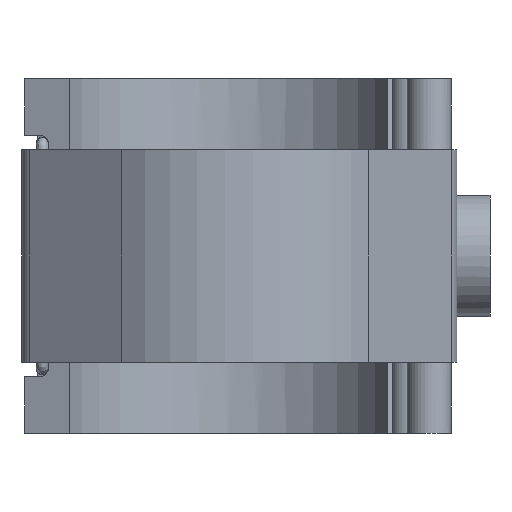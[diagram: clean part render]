
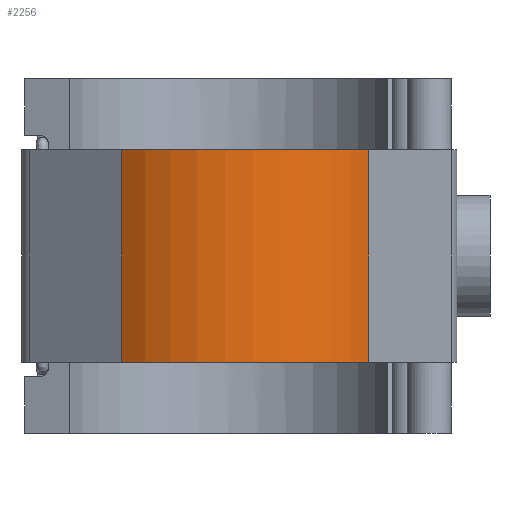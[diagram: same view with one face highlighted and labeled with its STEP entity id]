
A CAD part, front view. The second image highlights one B-rep face of the part: STEP entity #2256.
In plain terms, the highlighted cylindrical face has radius 86.52 mm (diameter 173.04 mm), a partial arc.
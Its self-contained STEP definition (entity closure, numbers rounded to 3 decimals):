
#216=FACE_OUTER_BOUND('',#351,.T.);
#351=EDGE_LOOP('',(#1991,#1992,#1993,#1994));
#447=CIRCLE('',#2420,86.52);
#453=CIRCLE('',#2427,86.52);
#703=LINE('',#4157,#891);
#708=LINE('',#4165,#896);
#891=VECTOR('',#3103,10.);
#896=VECTOR('',#3114,10.);
#1022=VERTEX_POINT('',#3840);
#1023=VERTEX_POINT('',#3842);
#1029=VERTEX_POINT('',#3859);
#1030=VERTEX_POINT('',#3861);
#1275=EDGE_CURVE('',#1022,#1023,#447,.T.);
#1286=EDGE_CURVE('',#1029,#1030,#453,.T.);
#1403=EDGE_CURVE('',#1029,#1023,#703,.T.);
#1408=EDGE_CURVE('',#1022,#1030,#708,.T.);
#1991=ORIENTED_EDGE('',*,*,#1408,.T.);
#1992=ORIENTED_EDGE('',*,*,#1286,.F.);
#1993=ORIENTED_EDGE('',*,*,#1403,.T.);
#1994=ORIENTED_EDGE('',*,*,#1275,.F.);
#2144=CYLINDRICAL_SURFACE('',#2500,86.52);
#2256=ADVANCED_FACE('',(#216),#2144,.T.);
#2420=AXIS2_PLACEMENT_3D('',#3843,#2862,#2863);
#2427=AXIS2_PLACEMENT_3D('',#3862,#2881,#2882);
#2500=AXIS2_PLACEMENT_3D('',#4166,#3115,#3116);
#2862=DIRECTION('center_axis',(0.,0.,-1.));
#2863=DIRECTION('ref_axis',(0.611,0.791,0.));
#2881=DIRECTION('center_axis',(0.,0.,1.));
#2882=DIRECTION('ref_axis',(0.611,0.791,0.));
#3103=DIRECTION('',(0.,0.,-1.));
#3114=DIRECTION('',(0.,0.,1.));
#3115=DIRECTION('center_axis',(0.,0.,1.));
#3116=DIRECTION('ref_axis',(0.611,0.791,0.));
#3840=CARTESIAN_POINT('',(69.739,-51.208,-52.807));
#3842=CARTESIAN_POINT('',(-52.905,-68.46,-52.807));
#3843=CARTESIAN_POINT('Origin',(0.,0.,
-52.807));
#3859=CARTESIAN_POINT('',(-52.905,-68.46,52.807));
#3861=CARTESIAN_POINT('',(69.739,-51.208,52.807));
#3862=CARTESIAN_POINT('Origin',(0.,0.,
52.807));
#4157=CARTESIAN_POINT('',(-52.905,-68.46,0.));
#4165=CARTESIAN_POINT('',(69.739,-51.208,0.));
#4166=CARTESIAN_POINT('Origin',(0.,0.,
0.));
